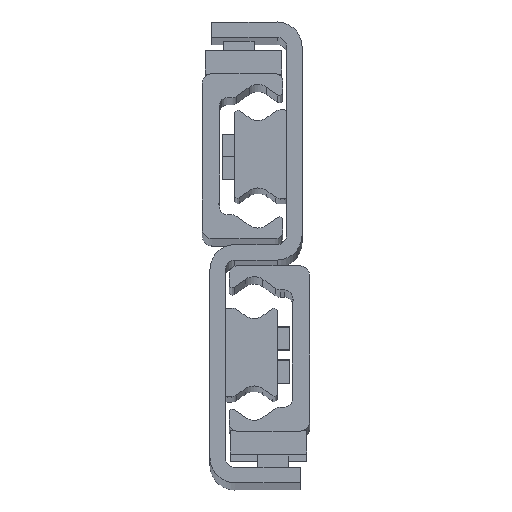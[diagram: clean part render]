
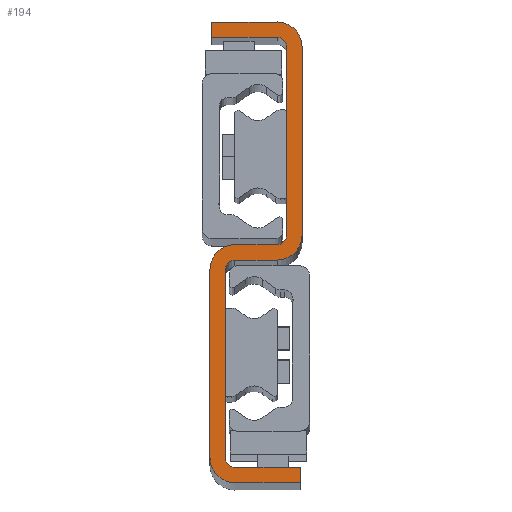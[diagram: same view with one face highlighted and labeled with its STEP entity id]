
A CAD part, top view. The second image highlights one B-rep face of the part: STEP entity #194.
In plain terms, the highlighted planar face has unit normal (0, 0, 1).
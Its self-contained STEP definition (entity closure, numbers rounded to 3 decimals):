
#194=ADVANCED_FACE('',(#641),#642,.T.);
#641=FACE_OUTER_BOUND('',#1347,.T.);
#642=PLANE('',#1348);
#1347=EDGE_LOOP('',(#2701,#2702,#2703,#2704,#2705,#2706,#2707,#2708,#2709,#2710,#2711,#2712,#2713,#2714,#2715,#2716,#2717,#2718,#2719,#2720));
#1348=AXIS2_PLACEMENT_3D('',#2721,#2722,#2723);
#2701=ORIENTED_EDGE('',*,*,#4669,.F.);
#2702=ORIENTED_EDGE('',*,*,#4727,.F.);
#2703=ORIENTED_EDGE('',*,*,#4724,.F.);
#2704=ORIENTED_EDGE('',*,*,#4721,.F.);
#2705=ORIENTED_EDGE('',*,*,#4718,.F.);
#2706=ORIENTED_EDGE('',*,*,#4715,.F.);
#2707=ORIENTED_EDGE('',*,*,#4712,.F.);
#2708=ORIENTED_EDGE('',*,*,#4709,.F.);
#2709=ORIENTED_EDGE('',*,*,#4706,.F.);
#2710=ORIENTED_EDGE('',*,*,#4703,.F.);
#2711=ORIENTED_EDGE('',*,*,#4700,.F.);
#2712=ORIENTED_EDGE('',*,*,#4697,.F.);
#2713=ORIENTED_EDGE('',*,*,#4694,.F.);
#2714=ORIENTED_EDGE('',*,*,#4691,.F.);
#2715=ORIENTED_EDGE('',*,*,#4688,.F.);
#2716=ORIENTED_EDGE('',*,*,#4685,.F.);
#2717=ORIENTED_EDGE('',*,*,#4682,.F.);
#2718=ORIENTED_EDGE('',*,*,#4679,.F.);
#2719=ORIENTED_EDGE('',*,*,#4676,.F.);
#2720=ORIENTED_EDGE('',*,*,#4673,.F.);
#2721=CARTESIAN_POINT('',(-14.,26.,1643.0));
#2722=DIRECTION('',(0.0,0.0,1.0));
#2723=DIRECTION('',(1.0,0.0,0.0));
#4669=EDGE_CURVE('',#5667,#5668,#5669,.T.);
#4673=EDGE_CURVE('',#5668,#5675,#5676,.T.);
#4676=EDGE_CURVE('',#5675,#5680,#5681,.T.);
#4679=EDGE_CURVE('',#5680,#5685,#5686,.T.);
#4682=EDGE_CURVE('',#5685,#5690,#5691,.T.);
#4685=EDGE_CURVE('',#5690,#5695,#5696,.T.);
#4688=EDGE_CURVE('',#5695,#5700,#5701,.T.);
#4691=EDGE_CURVE('',#5700,#5705,#5706,.T.);
#4694=EDGE_CURVE('',#5705,#5710,#5711,.T.);
#4697=EDGE_CURVE('',#5710,#5715,#5716,.T.);
#4700=EDGE_CURVE('',#5715,#5720,#5721,.T.);
#4703=EDGE_CURVE('',#5720,#5725,#5726,.T.);
#4706=EDGE_CURVE('',#5725,#5730,#5731,.T.);
#4709=EDGE_CURVE('',#5730,#5735,#5736,.T.);
#4712=EDGE_CURVE('',#5735,#5740,#5741,.T.);
#4715=EDGE_CURVE('',#5740,#5745,#5746,.T.);
#4718=EDGE_CURVE('',#5745,#5750,#5751,.T.);
#4721=EDGE_CURVE('',#5750,#5755,#5756,.T.);
#4724=EDGE_CURVE('',#5755,#5760,#5761,.T.);
#4727=EDGE_CURVE('',#5760,#5667,#5765,.T.);
#5667=VERTEX_POINT('',#7229);
#5668=VERTEX_POINT('',#7230);
#5669=LINE('',#7231,#7232);
#5675=VERTEX_POINT('',#7241);
#5676=CIRCLE('',#7242,2.5);
#5680=VERTEX_POINT('',#7247);
#5681=LINE('',#7248,#7249);
#5685=VERTEX_POINT('',#7255);
#5686=CIRCLE('',#7256,2.5);
#5690=VERTEX_POINT('',#7261);
#5691=LINE('',#7262,#7263);
#5695=VERTEX_POINT('',#7269);
#5696=LINE('',#7270,#7271);
#5700=VERTEX_POINT('',#7277);
#5701=LINE('',#7278,#7279);
#5705=VERTEX_POINT('',#7285);
#5706=CIRCLE('',#7286,6.5);
#5710=VERTEX_POINT('',#7291);
#5711=LINE('',#7292,#7293);
#5715=VERTEX_POINT('',#7299);
#5716=CIRCLE('',#7300,6.5);
#5720=VERTEX_POINT('',#7305);
#5721=LINE('',#7306,#7307);
#5725=VERTEX_POINT('',#7313);
#5726=CIRCLE('',#7314,2.5);
#5730=VERTEX_POINT('',#7319);
#5731=LINE('',#7320,#7321);
#5735=VERTEX_POINT('',#7327);
#5736=CIRCLE('',#7328,2.5);
#5740=VERTEX_POINT('',#7333);
#5741=LINE('',#7334,#7335);
#5745=VERTEX_POINT('',#7341);
#5746=LINE('',#7342,#7343);
#5750=VERTEX_POINT('',#7349);
#5751=LINE('',#7350,#7351);
#5755=VERTEX_POINT('',#7357);
#5756=CIRCLE('',#7358,6.5);
#5760=VERTEX_POINT('',#7363);
#5761=LINE('',#7364,#7365);
#5765=CIRCLE('',#7371,6.5);
#7229=CARTESIAN_POINT('',(-8.5,24.,1643.0));
#7230=CARTESIAN_POINT('',(-19.5,24.,1643.0));
#7231=CARTESIAN_POINT('',(-8.5,24.,1643.0));
#7232=VECTOR('',#8901,1.0);
#7241=CARTESIAN_POINT('',(-22.,21.5,1643.0));
#7242=AXIS2_PLACEMENT_3D('',#8905,#8906,#8907);
#7247=CARTESIAN_POINT('',(-22.,-27.5,1643.0));
#7248=CARTESIAN_POINT('',(-22.,-27.5,1643.0));
#7249=VECTOR('',#8912,1.0);
#7255=CARTESIAN_POINT('',(-19.5,-30.,1643.0));
#7256=AXIS2_PLACEMENT_3D('',#8915,#8916,#8917);
#7261=CARTESIAN_POINT('',(-2.5,-30.,1643.0));
#7262=CARTESIAN_POINT('',(-19.5,-30.,1643.0));
#7263=VECTOR('',#8922,1.0);
#7269=CARTESIAN_POINT('',(-2.5,-34.,1643.0));
#7270=CARTESIAN_POINT('',(-2.5,-34.,1643.0));
#7271=VECTOR('',#8925,1.0);
#7277=CARTESIAN_POINT('',(-19.5,-34.,1643.0));
#7278=CARTESIAN_POINT('',(-19.5,-34.,1643.0));
#7279=VECTOR('',#8928,1.0);
#7285=CARTESIAN_POINT('',(-26.,-27.5,1643.0));
#7286=AXIS2_PLACEMENT_3D('',#8931,#8932,#8933);
#7291=CARTESIAN_POINT('',(-26.,21.5,1643.0));
#7292=CARTESIAN_POINT('',(-26.,21.5,1643.0));
#7293=VECTOR('',#8938,1.0);
#7299=CARTESIAN_POINT('',(-19.5,28.,1643.0));
#7300=AXIS2_PLACEMENT_3D('',#8941,#8942,#8943);
#7305=CARTESIAN_POINT('',(-8.5,28.,1643.0));
#7306=CARTESIAN_POINT('',(-8.5,28.,1643.0));
#7307=VECTOR('',#8948,1.0);
#7313=CARTESIAN_POINT('',(-6.,30.5,1643.0));
#7314=AXIS2_PLACEMENT_3D('',#8951,#8952,#8953);
#7319=CARTESIAN_POINT('',(-6.,79.5,1643.0));
#7320=CARTESIAN_POINT('',(-6.,79.5,1643.0));
#7321=VECTOR('',#8958,1.0);
#7327=CARTESIAN_POINT('',(-8.5,82.,1643.0));
#7328=AXIS2_PLACEMENT_3D('',#8961,#8962,#8963);
#7333=CARTESIAN_POINT('',(-25.5,82.,1643.0));
#7334=CARTESIAN_POINT('',(-25.5,82.,1643.0));
#7335=VECTOR('',#8968,1.0);
#7341=CARTESIAN_POINT('',(-25.5,86.,1643.0));
#7342=CARTESIAN_POINT('',(-25.5,86.,1643.0));
#7343=VECTOR('',#8971,1.0);
#7349=CARTESIAN_POINT('',(-8.5,86.,1643.0));
#7350=CARTESIAN_POINT('',(-25.5,86.,1643.0));
#7351=VECTOR('',#8974,1.0);
#7357=CARTESIAN_POINT('',(-2.,79.5,1643.0));
#7358=AXIS2_PLACEMENT_3D('',#8977,#8978,#8979);
#7363=CARTESIAN_POINT('',(-2.,30.5,1643.0));
#7364=CARTESIAN_POINT('',(-2.,79.5,1643.0));
#7365=VECTOR('',#8984,1.0);
#7371=AXIS2_PLACEMENT_3D('',#8987,#8988,#8989);
#8901=DIRECTION('',(-1.0,0.,0.0));
#8905=CARTESIAN_POINT('',(-19.5,21.5,1643.0));
#8906=DIRECTION('',(0.0,0.0,1.0));
#8907=DIRECTION('',(1.0,0.0,0.0));
#8912=DIRECTION('',(-0.0,-1.0,-0.0));
#8915=CARTESIAN_POINT('',(-19.5,-27.5,1643.0));
#8916=DIRECTION('',(0.0,0.0,1.0));
#8917=DIRECTION('',(1.0,0.0,0.0));
#8922=DIRECTION('',(1.,0.,0.0));
#8925=DIRECTION('',(-0.0,-1.0,-0.0));
#8928=DIRECTION('',(-1.,0.,-0.0));
#8931=CARTESIAN_POINT('',(-19.5,-27.5,1643.0));
#8932=DIRECTION('',(0.0,0.0,-1.0));
#8933=DIRECTION('',(1.0,0.0,0.0));
#8938=DIRECTION('',(0.0,1.0,0.0));
#8941=CARTESIAN_POINT('',(-19.5,21.5,1643.0));
#8942=DIRECTION('',(0.0,0.0,-1.0));
#8943=DIRECTION('',(1.0,0.0,0.0));
#8948=DIRECTION('',(1.0,0.,0.0));
#8951=CARTESIAN_POINT('',(-8.5,30.5,1643.0));
#8952=DIRECTION('',(0.0,0.0,1.0));
#8953=DIRECTION('',(1.0,0.0,0.0));
#8958=DIRECTION('',(0.0,1.0,0.0));
#8961=CARTESIAN_POINT('',(-8.5,79.5,1643.0));
#8962=DIRECTION('',(0.0,0.0,1.0));
#8963=DIRECTION('',(1.0,0.0,0.0));
#8968=DIRECTION('',(-1.,0.,0.0));
#8971=DIRECTION('',(0.0,1.0,0.0));
#8974=DIRECTION('',(1.,0.,0.0));
#8977=CARTESIAN_POINT('',(-8.5,79.5,1643.0));
#8978=DIRECTION('',(0.0,0.0,-1.0));
#8979=DIRECTION('',(1.0,0.0,0.0));
#8984=DIRECTION('',(0.,-1.0,0.0));
#8987=CARTESIAN_POINT('',(-8.5,30.5,1643.0));
#8988=DIRECTION('',(0.0,0.0,-1.0));
#8989=DIRECTION('',(1.0,0.0,0.0));
